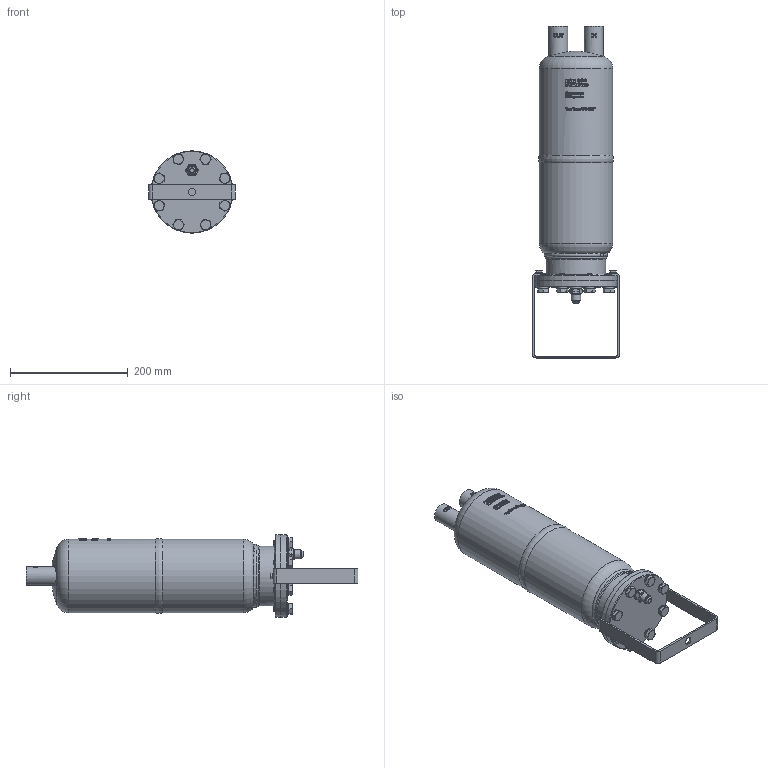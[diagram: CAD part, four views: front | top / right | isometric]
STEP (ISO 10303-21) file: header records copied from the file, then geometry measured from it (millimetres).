
FILE_DESCRIPTION(/* description */ (''),/* implementation_level */ '2;1');
FILE_NAME(/* name */ 'P:\OS\OS-28F\OS-28F.stp',/* time_stamp */ '2017-10-04T08:01:40+02:00',/* author */ ('neufeld'),/* organization */ (''),/* preprocessor_version */ 'ST-DEVELOPER v16.1',/* originating_system */ 'Autodesk Inventor 2016',/* authorisation */ '');
FILE_SCHEMA (('AUTOMOTIVE_DESIGN { 1 0 10303 214 3 1 1 }'));
Products named in the file (2): OS-28F; OS-28F_1
Assembly tree (1 placements, depth 2):
  OS-28F_1
    OS-28F
Bounding box: 148 x 565.02 x 140 mm (x, y, z)
Volume: 4824976.3 mm3; surface area: 237191 mm2
Topology: 1 solids, 1 shells, 1308 faces, 3435 edges, 2255 vertices
Faces by surface type: plane 657, bspline 362, cylinder 170, cone 113, torus 6
Full cylindrical faces by diameter (mm): 7.2 x1, 8.7 x2, 9.188 x8, 10 x16, 10.5 x8, 13 x1, 13.5 x1, 15.4 x8, 15.7 x1, 19 x1, 28.7 x2, 32 x2, 32.2 x2, 102 x1, 105 x1, 125 x2, 140 x2
Entity records: 52349 total; most frequent: CARTESIAN_POINT 22713, ORIENTED_EDGE 6636, DIRECTION 5235, EDGE_CURVE 3318, VERTEX_POINT 2225, AXIS2_PLACEMENT_3D 1897, EDGE_LOOP 1541, LINE 1441
